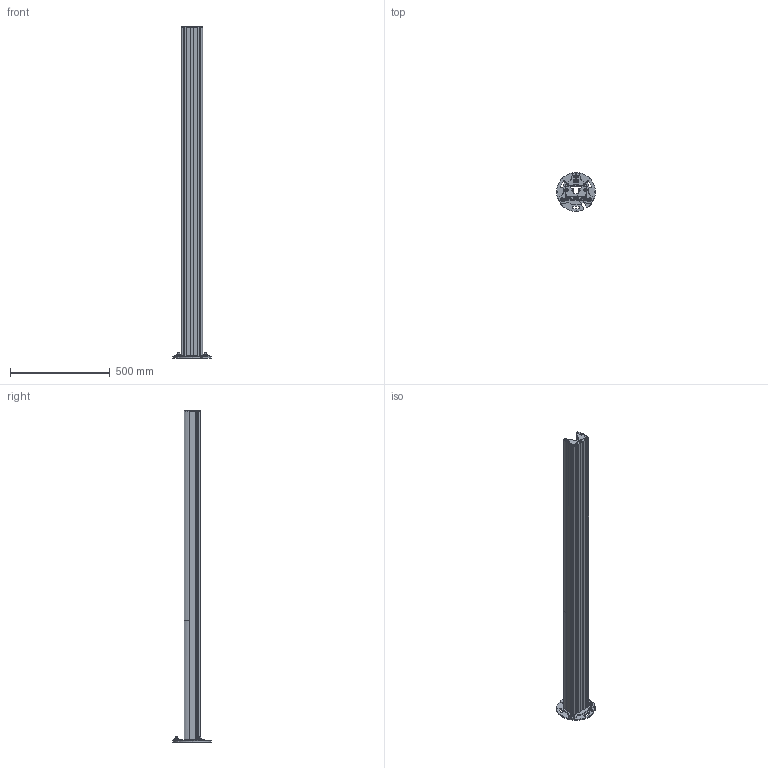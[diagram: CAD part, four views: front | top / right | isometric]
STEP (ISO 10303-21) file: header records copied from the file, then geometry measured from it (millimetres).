
FILE_DESCRIPTION((''),'2;1');
FILE_NAME('2011261','2012-09-07T',('rink'),(''),'PRO/ENGINEER BY PARAMETRIC TECHNOLOGY CORPORATION, 2011040','PRO/ENGINEER BY PARAMETRIC TECHNOLOGY CORPORATION, 2011040','');
FILE_SCHEMA(('AUTOMOTIVE_DESIGN_CC2 { 1 2 10303 214 -1 1 5 2 }'));
Products named in the file (1): 2011261
Bounding box: 194.91 x 194.91 x 1667.9 mm (x, y, z)
Surface area: 1762911 mm2
Topology: 5 solids, 185 shells, 1227 faces, 4356 edges, 3167 vertices
Faces by surface type: plane 583, cylinder 454, cone 120, torus 41, bspline 25, sphere 4
Entity records: 116314 total; most frequent: CARTESIAN_POINT 66398, DIRECTION 6936, ORIENTED_EDGE 6787, PRESENTATION_STYLE_ASSIGNMENT 4507, STYLED_ITEM 4502, CURVE_STYLE 4316, EDGE_CURVE 4308, VERTEX_POINT 3157
